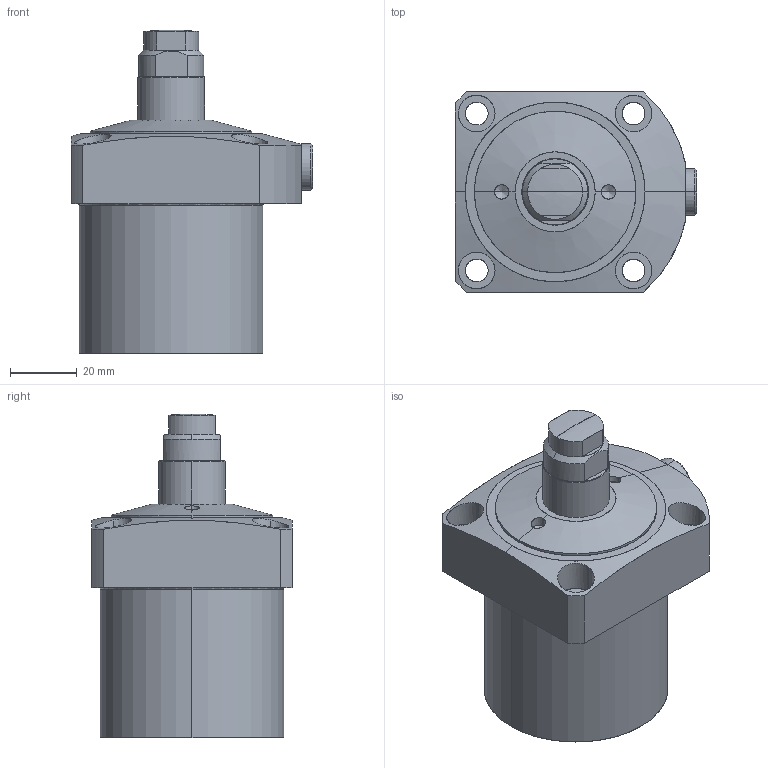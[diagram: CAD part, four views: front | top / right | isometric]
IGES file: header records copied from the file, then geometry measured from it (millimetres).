
Start section: SolidWorks IGES file using analytic representation for surfaces
Global section: file name: D:\abhilash\nijil\cylinder\Clasys1\lcE\cx\552\pt\0203-0301-E.IGS; native system: SolidWorks 2010; preprocessor: SolidWorks 2010; author: nidheesh; date: 130730.121621; units: millimetre
Bounding box: 72.5 x 60 x 97 mm (x, y, z)
Surface area: 24210.1 mm2 (no closed solid volume)
Topology: 0 solids, 0 shells, 86 faces, 1653 edges, 1648 vertices
Faces by surface type: revolution 56, bspline 30
